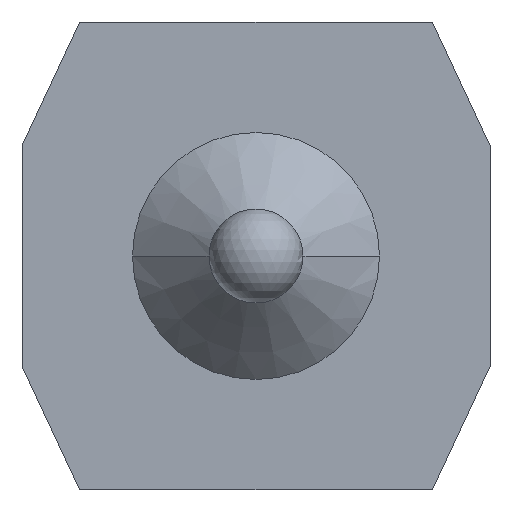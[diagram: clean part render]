
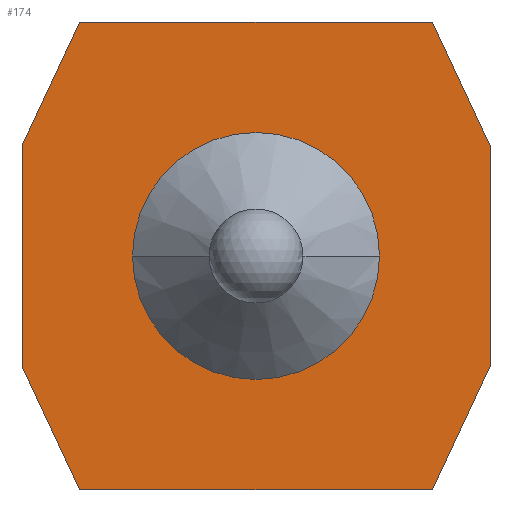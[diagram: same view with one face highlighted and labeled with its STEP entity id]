
A CAD part, front view. The second image highlights one B-rep face of the part: STEP entity #174.
In plain terms, the highlighted planar face has unit normal (0, -1, 0).
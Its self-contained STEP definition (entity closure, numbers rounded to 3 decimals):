
#152=VERTEX_POINT('',#410);
#158=EDGE_CURVE('',#368,#292,#416,.T.);
#168=VERTEX_POINT('',#426);
#174=ADVANCED_FACE('',(#432,#433),#434,.F.);
#178=VERTEX_POINT('',#438);
#184=EDGE_CURVE('',#328,#152,#446,.T.);
#210=EDGE_CURVE('',#244,#368,#475,.T.);
#232=EDGE_CURVE('',#264,#152,#498,.T.);
#244=VERTEX_POINT('',#512);
#264=VERTEX_POINT('',#533);
#274=VERTEX_POINT('',#545);
#280=EDGE_CURVE('',#340,#244,#551,.T.);
#288=EDGE_CURVE('',#168,#340,#560,.T.);
#292=VERTEX_POINT('',#565);
#328=VERTEX_POINT('',#608);
#330=EDGE_CURVE('',#328,#168,#610,.T.);
#334=EDGE_CURVE('',#178,#274,#614,.T.);
#340=VERTEX_POINT('',#620);
#364=EDGE_CURVE('',#292,#264,#646,.T.);
#368=VERTEX_POINT('',#650);
#380=EDGE_CURVE('',#274,#178,#662,.T.);
#410=CARTESIAN_POINT('',(1.27,0.,0.6));
#416=LINE('',#697,#698);
#426=CARTESIAN_POINT('',(0.958,0.,-1.27));
#432=FACE_BOUND('',#724,.T.);
#433=FACE_OUTER_BOUND('',#725,.T.);
#434=PLANE('',#726);
#438=CARTESIAN_POINT('',(0.67,0.,0.));
#446=LINE('',#739,#740);
#475=LINE('',#774,#775);
#498=LINE('',#806,#807);
#512=CARTESIAN_POINT('',(-1.27,0.,-0.6));
#533=CARTESIAN_POINT('',(0.958,0.,1.27));
#545=CARTESIAN_POINT('',(-0.67,0.,0.));
#551=LINE('',#873,#874);
#560=LINE('',#886,#887);
#565=CARTESIAN_POINT('',(-0.958,0.,1.27));
#608=CARTESIAN_POINT('',(1.27,0.,-0.6));
#610=LINE('',#952,#953);
#614=CIRCLE('',#960,0.67);
#620=CARTESIAN_POINT('',(-0.958,0.,-1.27));
#646=LINE('',#1003,#1004);
#650=CARTESIAN_POINT('',(-1.27,0.,0.6));
#662=CIRCLE('',#1025,0.67);
#697=CARTESIAN_POINT('',(-1.27,0.,0.6));
#698=VECTOR('',#1049,1.0);
#724=EDGE_LOOP('',(#1061,#1062));
#725=EDGE_LOOP('',(#1063,#1064,#1065,#1066,#1067,#1068,#1069,#1070));
#726=AXIS2_PLACEMENT_3D('',#1071,#1072,#1073);
#739=CARTESIAN_POINT('',(1.27,0.,-0.6));
#740=VECTOR('',#1093,1.0);
#774=CARTESIAN_POINT('',(-1.27,0.,-0.6));
#775=VECTOR('',#1130,1.0);
#806=CARTESIAN_POINT('',(0.958,0.,1.27));
#807=VECTOR('',#1150,1.0);
#873=CARTESIAN_POINT('',(-0.958,0.,-1.27));
#874=VECTOR('',#1208,1.0);
#886=CARTESIAN_POINT('',(0.958,0.,-1.27));
#887=VECTOR('',#1219,1.0);
#952=CARTESIAN_POINT('',(1.27,0.,-0.6));
#953=VECTOR('',#1304,1.0);
#960=AXIS2_PLACEMENT_3D('',#1306,#1307,#1308);
#1003=CARTESIAN_POINT('',(-0.958,0.,1.27));
#1004=VECTOR('',#1335,1.0);
#1025=AXIS2_PLACEMENT_3D('',#1343,#1344,#1345);
#1049=DIRECTION('',(0.423,0.,0.906));
#1061=ORIENTED_EDGE('',*,*,#380,.T.);
#1062=ORIENTED_EDGE('',*,*,#334,.T.);
#1063=ORIENTED_EDGE('',*,*,#330,.F.);
#1064=ORIENTED_EDGE('',*,*,#184,.T.);
#1065=ORIENTED_EDGE('',*,*,#232,.F.);
#1066=ORIENTED_EDGE('',*,*,#364,.F.);
#1067=ORIENTED_EDGE('',*,*,#158,.F.);
#1068=ORIENTED_EDGE('',*,*,#210,.F.);
#1069=ORIENTED_EDGE('',*,*,#280,.F.);
#1070=ORIENTED_EDGE('',*,*,#288,.F.);
#1071=CARTESIAN_POINT('',(0.,0.0,0.0));
#1072=DIRECTION('',(0.0,1.0,0.));
#1073=DIRECTION('',(1.0,0.0,0.0));
#1093=DIRECTION('',(0.0,0.,1.0));
#1130=DIRECTION('',(0.0,0.,1.0));
#1150=DIRECTION('',(0.423,0.,-0.906));
#1208=DIRECTION('',(-0.423,0.,0.906));
#1219=DIRECTION('',(-1.0,0.0,0.0));
#1304=DIRECTION('',(-0.423,0.,-0.906));
#1306=CARTESIAN_POINT('',(0.0,0.,0.));
#1307=DIRECTION('',(0.0,1.0,0.));
#1308=DIRECTION('',(1.0,0.0,0.0));
#1335=DIRECTION('',(1.0,0.0,0.0));
#1343=CARTESIAN_POINT('',(0.0,0.,0.));
#1344=DIRECTION('',(0.0,1.0,0.));
#1345=DIRECTION('',(1.0,0.0,0.0));
